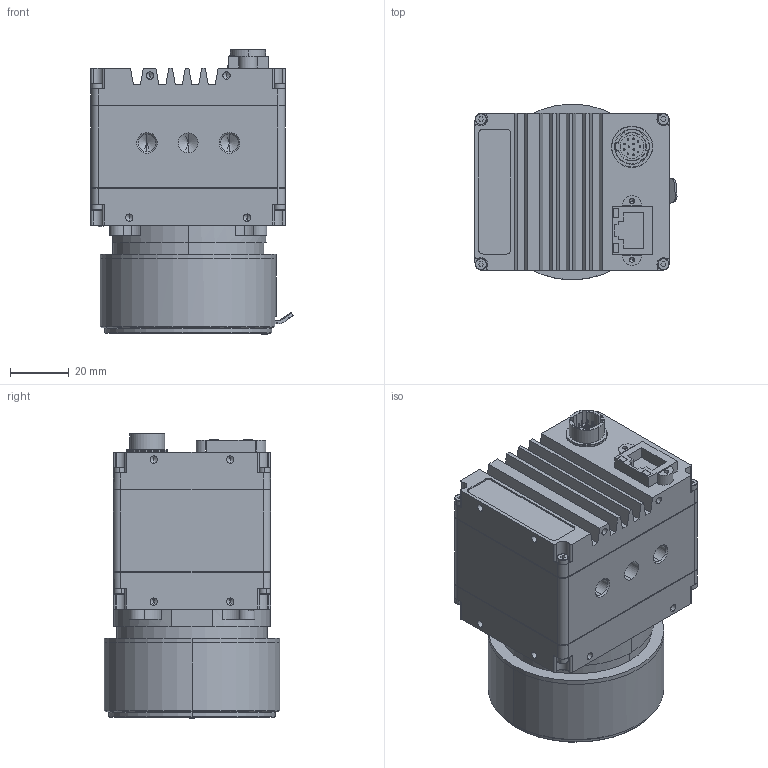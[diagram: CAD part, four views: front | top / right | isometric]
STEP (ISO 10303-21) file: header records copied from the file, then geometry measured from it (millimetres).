
FILE_DESCRIPTION (( 'STEP AP214' ), '1' );
FILE_NAME ('GT4907C F-MOUNT.STEP', '2016-01-23T00:02:13', ( '' ), ( '' ), 'SwSTEP 2.0', 'SolidWorks 2015', '' );
FILE_SCHEMA (( 'AUTOMOTIVE_DESIGN' ));
Length unit declared in the file: millimetre
Products named in the file (6): GT4907C F-MOUNT; LEGACY LENS MOUNT BASE - defeatured; LEGACY FMOUNT ASSY - defeatured; GTLF BODY ASSY - defeatured_GT4907; IR CUT FILTER - defeatured; LEGACY FILTER RING - defeatured
Assembly tree (5 placements, depth 2):
  GT4907C F-MOUNT
    GTLF BODY ASSY - defeatured_GT4907
    LEGACY LENS MOUNT BASE - defeatured
    IR CUT FILTER - defeatured
    LEGACY FILTER RING - defeatured
    LEGACY FMOUNT ASSY - defeatured
Bounding box: 68.63 x 59.7 x 96.76 mm (x, y, z)
Volume: 197631.1 mm3; surface area: 54218.1 mm2
Topology: 5 solids, 13 shells, 751 faces, 1890 edges, 1143 vertices
Faces by surface type: cylinder 319, plane 269, cone 120, sphere 26, torus 17
Entity records: 26011 total; most frequent: CARTESIAN_POINT 4030, DIRECTION 3993, ORIENTED_EDGE 3512, EDGE_CURVE 1756, AXIS2_PLACEMENT_3D 1510, VERTEX_POINT 1119, VECTOR 973, LINE 973
